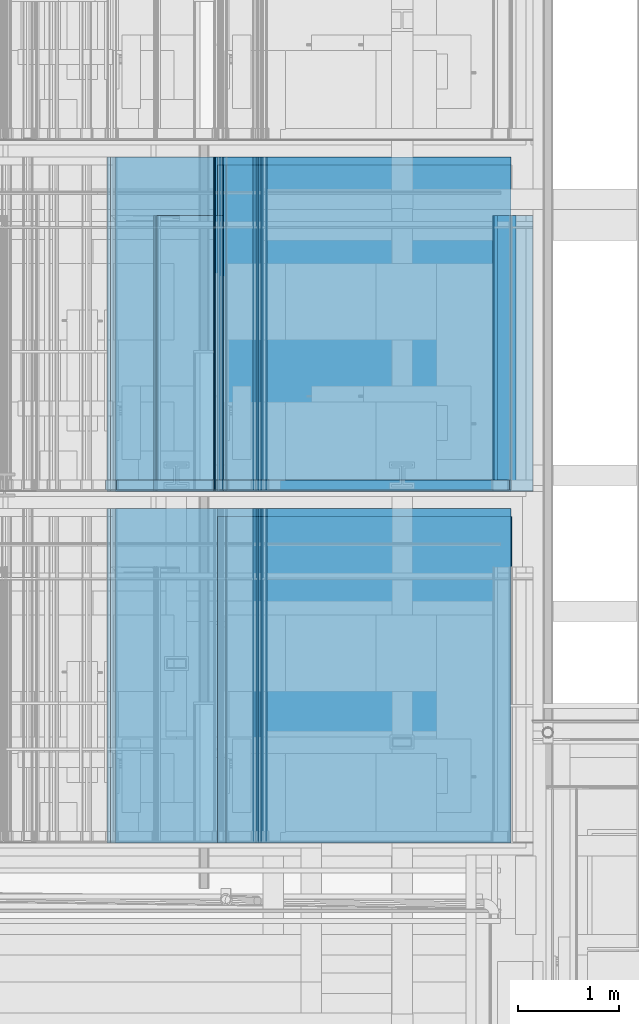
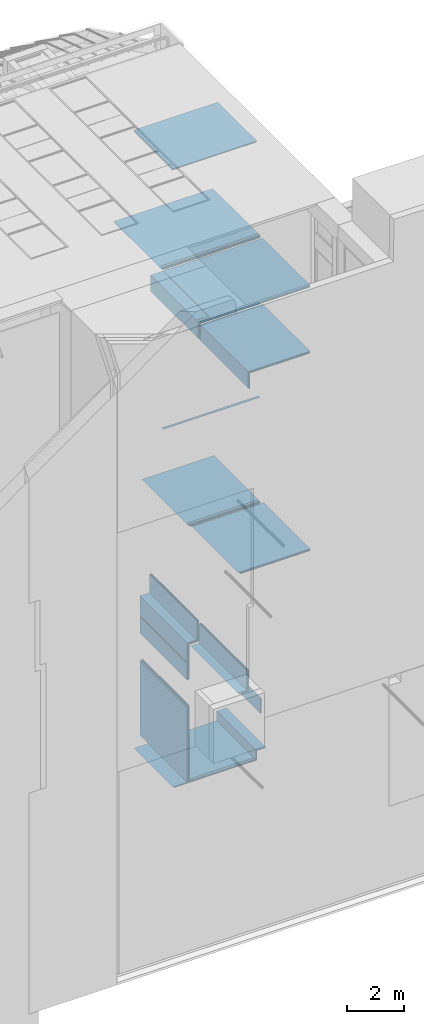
# One storey, part 112 of 583: 60 building element parts, 20 elements without a shape of their own.
"""IFC2X3 building model written with IfcOpenShell, lengths in metres."""

import ifcopenshell
import ifcopenshell.guid

model = None  # the IFC model being written
_history = None  # IfcOwnerHistory: only IFC2X3 demands one
_inside = {}  # id of a spatial element -> (the spatial element, [elements in it])
_under = {}  # id of a project, library or spatial element -> (it, [spatial elements below it])
_declared = {}  # id of a project -> (the project, [libraries it declares])
_typed = {}  # id of a type object -> (the type object, [elements of that type])
_made_of = {}  # id of a material, layer set ... -> (it, [elements and type objects made of it])


def new_model(schema):
    """Start an empty IFC model of exactly this schema.

    Asked for "IFC4X3", IfcOpenShell would pick the latest addendum, in which some entities
    have other attributes; the version numbers below select the first issue.
    IFC2X3 requires an IfcOwnerHistory on every rooted entity: one is made here for all.
    """
    global model, _history
    if schema == "IFC4X3":
        model = ifcopenshell.file(schema_version=(4, 3, 0, 0))
    else:
        model = ifcopenshell.file(schema=schema)
    _inside.clear()
    _under.clear()
    _declared.clear()
    _typed.clear()
    _made_of.clear()
    _history = None
    if model.schema == "IFC2X3":
        org = make("IfcOrganization", Name="unknown")
        user = make(
            "IfcPersonAndOrganization",
            ThePerson=make("IfcPerson", FamilyName="unknown"),
            TheOrganization=org,
        )
        app = make(
            "IfcApplication",
            ApplicationDeveloper=org,
            Version="unknown",
            ApplicationFullName="unknown",
            ApplicationIdentifier="unknown",
        )
        _history = make(
            "IfcOwnerHistory",
            OwningUser=user,
            OwningApplication=app,
            ChangeAction="ADDED",
            CreationDate=0,
        )
    return model


def make(cls, **values):
    """One entity of the class cls with the attributes given. An attribute that is None is left unset."""
    return model.create_entity(
        cls, **{name: value for name, value in values.items() if value is not None}
    )


def entity(cls, *values):
    """Any entity or typed value of the class cls, its attributes in the order of the schema. None: left unset."""
    e = model.create_entity(cls)
    for i, value in enumerate(values):
        if value is not None:
            e[i] = value
    return e


def rooted(cls, **values):
    """An entity with a GlobalId (a new one), such as an element, a storey or a relation."""
    return make(cls, GlobalId=ifcopenshell.guid.new(), OwnerHistory=_history, **values)


def si_unit(unit_type, name, prefix=None):
    """IfcSIUnit, for example si_unit("LENGTHUNIT", "METRE", prefix="MILLI")."""
    return make("IfcSIUnit", UnitType=unit_type, Prefix=prefix, Name=name)


def converted_unit(unit_type, name, factor, base, dimensions=None, offset=None):
    """IfcConversionBasedUnit, such as the inch: factor (a typed value) times the base unit."""
    return make(
        "IfcConversionBasedUnit"
        if offset is None
        else "IfcConversionBasedUnitWithOffset",
        ConversionOffset=offset,
        Dimensions=None
        if dimensions is None
        else entity("IfcDimensionalExponents", *dimensions),
        UnitType=unit_type,
        Name=name,
        ConversionFactor=make(
            "IfcMeasureWithUnit", ValueComponent=factor, UnitComponent=base
        ),
    )


def derived_unit(unit_type, elements):
    """IfcDerivedUnit: a product of units, each with its exponent."""
    return make(
        "IfcDerivedUnit",
        Elements=[
            make("IfcDerivedUnitElement", Unit=unit, Exponent=power)
            for unit, power in elements
        ],
        UnitType=unit_type,
    )


def money_unit(currency):
    """IfcMonetaryUnit."""
    return make("IfcMonetaryUnit", Currency=currency)


def assignment(units):
    """IfcUnitAssignment: the units of a project."""
    return None if units is None else make("IfcUnitAssignment", Units=units)


def point(xyz):
    """IfcCartesianPoint."""
    return None if xyz is None else make("IfcCartesianPoint", Coordinates=xyz)


def direction(xyz):
    """IfcDirection."""
    return None if xyz is None else make("IfcDirection", DirectionRatios=xyz)


def frame(location, z_axis=None, x_axis=None):
    """IfcAxis2Placement3D, a coordinate frame: its origin and axes. An axis left out is left unset."""
    return make(
        "IfcAxis2Placement3D",
        Location=point(location),
        Axis=direction(z_axis),
        RefDirection=direction(x_axis),
    )


def frame_2d(location, x_axis=None):
    """IfcAxis2Placement2D, a coordinate frame in the plane: its origin and x axis."""
    return make(
        "IfcAxis2Placement2D", Location=point(location), RefDirection=direction(x_axis)
    )


def origin_with_axes():
    """The frame at (0, 0, 0) with the z axis (0, 0, 1) and the x axis (1, 0, 0) written out."""
    return frame((0.0, 0.0, 0.0), z_axis=(0.0, 0.0, 1.0), x_axis=(1.0, 0.0, 0.0))


def place(relative_to, where):
    """IfcLocalPlacement: puts the frame where relative to a parent placement (None: the world)."""
    return make(
        "IfcLocalPlacement", PlacementRelTo=relative_to, RelativePlacement=where
    )


def context(
    kind, dimensions, precision=None, world=None, true_north=None, identifier=None
):
    """IfcGeometricRepresentationContext, for example the 3D "Model" context."""
    return make(
        "IfcGeometricRepresentationContext",
        ContextIdentifier=identifier,
        ContextType=kind,
        CoordinateSpaceDimension=dimensions,
        Precision=precision,
        WorldCoordinateSystem=world,
        TrueNorth=true_north,
    )


def subcontext(parent, identifier, kind, view, scale=None):
    """IfcGeometricRepresentationSubContext, for example "Body" below "Model"."""
    return make(
        "IfcGeometricRepresentationSubContext",
        ContextIdentifier=identifier,
        ContextType=kind,
        ParentContext=parent,
        TargetScale=scale,
        TargetView=view,
    )


def project(units=None, contexts=None):
    """IfcProject with its units and contexts."""
    return rooted(
        "IfcProject",
        Name="project",
        RepresentationContexts=contexts,
        UnitsInContext=assignment(units),
    )


def spatial(cls, under=None, at=None, **own):
    """A site, building, storey or space (cls), placed at a placement, below another one or the project."""
    s = rooted(cls, ObjectPlacement=at, **own)
    if under is not None:
        _under.setdefault(under.id(), (under, []))[1].append(s)
    return s


def polyline(points):
    """IfcPolyline through the points."""
    return make("IfcPolyline", Points=[point(p) for p in points])


def profile(cls, at=None, kind="AREA", **sizes):
    """A parametric profile (cls). Its sizes go by their IFC names, for example OverallWidth=200.0."""
    return make(cls, ProfileType=kind, Position=at, **sizes)


def rectangle(**sizes):
    """IfcRectangleProfileDef."""
    return profile("IfcRectangleProfileDef", **sizes)


def outline(outer, holes=None, kind="AREA"):
    """IfcArbitraryClosedProfileDef: a profile drawn as a closed curve; with holes, ...WithVoids."""
    if holes is None:
        return make("IfcArbitraryClosedProfileDef", ProfileType=kind, OuterCurve=outer)
    return make(
        "IfcArbitraryProfileDefWithVoids",
        ProfileType=kind,
        OuterCurve=outer,
        InnerCurves=holes,
    )


def extrude(swept, where, along, depth):
    """IfcExtrudedAreaSolid: the profile swept, set in the frame where, extruded along a direction by depth."""
    return make(
        "IfcExtrudedAreaSolid",
        SweptArea=swept,
        Position=where,
        ExtrudedDirection=direction(along),
        Depth=depth,
    )


def shape(context_of_items, identifier, shape_type, items):
    """IfcShapeRepresentation: the items that make up one representation, for example the "Body"."""
    return make(
        "IfcShapeRepresentation",
        ContextOfItems=context_of_items,
        RepresentationIdentifier=identifier,
        RepresentationType=shape_type,
        Items=items,
    )


def material(Name=None, Category=None):
    """IfcMaterial."""
    return make("IfcMaterial", Name=Name, Category=Category)


def made_of(thing, what):
    """Note that an element or type object is made of a material, layer set ...; save() writes the relation."""
    if what is not None:
        _made_of.setdefault(what.id(), (what, []))[1].append(thing)
    return thing


def type_object(cls, material=None, **own):
    """A type object (cls), such as IfcWallType, which elements share."""
    return made_of(rooted(cls, **own), material)


def element(
    cls,
    number,
    at=None,
    inside=None,
    cuts=None,
    type_object=None,
    material=None,
    context=None,
    identifier="Body",
    shape_type=None,
    held_by="IfcProductDefinitionShape",
    body=None,
    shapes=None,
    **own,
):
    """One element of the class cls, such as IfcWall. Its Tag is "e" and its number.

    at: its placement. inside: the storey or other place that contains it. cuts: it is an
    opening in that element (IfcRelVoidsElement). A single representation is given by context,
    identifier, shape_type and body (its items); several are given by shapes. held_by: the class
    of the entity that holds the representations. save() writes the other relations.
    """
    e = rooted(cls, Tag="e%d" % number, ObjectPlacement=at, **own)
    if body is not None:
        shapes = [shape(context, identifier, shape_type, body)]
    if shapes is not None:
        e.Representation = make(held_by, Representations=shapes)
    if inside is not None:
        _inside.setdefault(inside.id(), (inside, []))[1].append(e)
    if cuts is not None:
        rooted(
            "IfcRelVoidsElement", RelatingBuildingElement=cuts, RelatedOpeningElement=e
        )
    if type_object is not None:
        _typed.setdefault(type_object.id(), (type_object, []))[1].append(e)
    return made_of(e, material)


def aggregate(whole, parts):
    """IfcRelAggregates: a whole, such as a stair, and the parts it consists of."""
    return rooted("IfcRelAggregates", RelatingObject=whole, RelatedObjects=parts)


def save(model, path):
    """Write the relations noted so far, then the file.

    IfcRelAggregates (storeys below a building ...), IfcRelContainedInSpatialStructure (elements
    in a storey), IfcRelDefinesByType, IfcRelAssociatesMaterial and IfcRelDeclares: one each for
    every whole, place, type object, material and project.
    """
    for whole, parts in _under.values():
        aggregate(whole, parts)
    for where, things in _inside.values():
        rooted(
            "IfcRelContainedInSpatialStructure",
            RelatedElements=things,
            RelatingStructure=where,
        )
    for kind, things in _typed.values():
        rooted("IfcRelDefinesByType", RelatedObjects=things, RelatingType=kind)
    for what, things in _made_of.values():
        rooted("IfcRelAssociatesMaterial", RelatedObjects=things, RelatingMaterial=what)
    for by, libraries in _declared.values():
        rooted("IfcRelDeclares", RelatingContext=by, RelatedDefinitions=libraries)
    model.write(path)


model = new_model("IFC2X3")

# Units and contexts
model_context = context("Model", 3, precision=1e-05, world=origin_with_axes(), true_north=direction((0.0, 1.0)))
body_context = subcontext(model_context, "Body", "Model", "MODEL_VIEW", scale=1.0)
ifc_project = project(units=[si_unit("LENGTHUNIT", "METRE"), si_unit("AREAUNIT", "SQUARE_METRE"), si_unit("VOLUMEUNIT", "CUBIC_METRE"), si_unit("ABSORBEDDOSEUNIT", "GRAY"), si_unit("AMOUNTOFSUBSTANCEUNIT", "MOLE"), si_unit("DOSEEQUIVALENTUNIT", "SIEVERT"), si_unit("ELECTRICCAPACITANCEUNIT", "FARAD"), si_unit("ELECTRICCHARGEUNIT", "COULOMB"), si_unit("ELECTRICCONDUCTANCEUNIT", "SIEMENS"), si_unit("ELECTRICCURRENTUNIT", "AMPERE"), si_unit("ELECTRICRESISTANCEUNIT", "OHM"), si_unit("ELECTRICVOLTAGEUNIT", "VOLT"), si_unit("ENERGYUNIT", "JOULE"), si_unit("FORCEUNIT", "NEWTON"), si_unit("FREQUENCYUNIT", "HERTZ"), si_unit("ILLUMINANCEUNIT", "LUX"), si_unit("INDUCTANCEUNIT", "HENRY"), si_unit("LUMINOUSFLUXUNIT", "LUMEN"), si_unit("LUMINOUSINTENSITYUNIT", "CANDELA"), si_unit("MAGNETICFLUXDENSITYUNIT", "TESLA"), si_unit("MAGNETICFLUXUNIT", "WEBER"), si_unit("MASSUNIT", "GRAM"), converted_unit("PLANEANGLEUNIT", "degree", entity("IfcReal", 0.0174532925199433), si_unit("PLANEANGLEUNIT", "RADIAN"), dimensions=[0, 0, 0, 0, 0, 0, 0]), si_unit("POWERUNIT", "WATT"), si_unit("PRESSUREUNIT", "PASCAL"), si_unit("RADIOACTIVITYUNIT", "BECQUEREL"), si_unit("SOLIDANGLEUNIT", "STERADIAN"), si_unit("THERMODYNAMICTEMPERATUREUNIT", "KELVIN"), si_unit("TIMEUNIT", "SECOND"), derived_unit("ACCELERATIONUNIT", [(si_unit("LENGTHUNIT", "METRE"), 1), (si_unit("TIMEUNIT", "SECOND"), -2)]), derived_unit("ANGULARVELOCITYUNIT", [(converted_unit("PLANEANGLEUNIT", "degree", entity("IfcReal", 0.0174532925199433), si_unit("PLANEANGLEUNIT", "RADIAN"), dimensions=[0, 0, 0, 0, 0, 0, 0]), 1), (si_unit("TIMEUNIT", "SECOND"), -1)]), derived_unit("CURVATUREUNIT", [(converted_unit("PLANEANGLEUNIT", "degree", entity("IfcReal", 0.0174532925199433), si_unit("PLANEANGLEUNIT", "RADIAN"), dimensions=[0, 0, 0, 0, 0, 0, 0]), 1), (si_unit("LENGTHUNIT", "METRE"), -1)]), derived_unit("DYNAMICVISCOSITYUNIT", [(si_unit("PRESSUREUNIT", "PASCAL"), 1), (si_unit("TIMEUNIT", "SECOND"), 1)]), derived_unit("HEATFLUXDENSITYUNIT", [(si_unit("POWERUNIT", "WATT"), 1), (si_unit("LENGTHUNIT", "METRE"), -2)]), derived_unit("HEATINGVALUEUNIT", [(si_unit("ENERGYUNIT", "JOULE"), 1), (si_unit("MASSUNIT", "GRAM"), -1)]), derived_unit("INTEGERCOUNTRATEUNIT", [(si_unit("TIMEUNIT", "SECOND"), -1)]), derived_unit("IONCONCENTRATIONUNIT", [(si_unit("MASSUNIT", "GRAM"), 1), (si_unit("VOLUMEUNIT", "CUBIC_METRE"), -1)]), derived_unit("ISOTHERMALMOISTURECAPACITYUNIT", [(si_unit("VOLUMEUNIT", "CUBIC_METRE"), 1), (si_unit("MASSUNIT", "GRAM"), -1)]), derived_unit("KINEMATICVISCOSITYUNIT", [(si_unit("AREAUNIT", "SQUARE_METRE"), 1), (si_unit("TIMEUNIT", "SECOND"), -1)]), derived_unit("LINEARFORCEUNIT", [(si_unit("FORCEUNIT", "NEWTON"), 1), (si_unit("LENGTHUNIT", "METRE"), -1)]), derived_unit("LINEARMOMENTUNIT", [(si_unit("FORCEUNIT", "NEWTON"), 1), (si_unit("LENGTHUNIT", "METRE"), -1)]), derived_unit("LINEARSTIFFNESSUNIT", [(si_unit("FORCEUNIT", "NEWTON"), 1), (si_unit("LENGTHUNIT", "METRE"), -1)]), derived_unit("LINEARVELOCITYUNIT", [(si_unit("LENGTHUNIT", "METRE"), 1), (si_unit("TIMEUNIT", "SECOND"), -1)]), derived_unit("LUMINOUSINTENSITYDISTRIBUTIONUNIT", [(si_unit("LUMINOUSINTENSITYUNIT", "CANDELA"), 1), (si_unit("LUMINOUSFLUXUNIT", "LUMEN"), -1)]), derived_unit("MASSDENSITYUNIT", [(si_unit("MASSUNIT", "GRAM"), 1), (si_unit("VOLUMEUNIT", "CUBIC_METRE"), -1)]), derived_unit("MASSFLOWRATEUNIT", [(si_unit("MASSUNIT", "GRAM"), 1), (si_unit("TIMEUNIT", "SECOND"), -1)]), derived_unit("MASSPERLENGTHUNIT", [(si_unit("MASSUNIT", "GRAM"), 1), (si_unit("LENGTHUNIT", "METRE"), -1)]), derived_unit("MODULUSOFELASTICITYUNIT", [(si_unit("FORCEUNIT", "NEWTON"), 1), (si_unit("AREAUNIT", "SQUARE_METRE"), -1)]), derived_unit("MODULUSOFLINEARSUBGRADEREACTIONUNIT", [(si_unit("FORCEUNIT", "NEWTON"), 1), (si_unit("LENGTHUNIT", "METRE"), -2)]), derived_unit("MODULUSOFROTATIONALSUBGRADEREACTIONUNIT", [(si_unit("FORCEUNIT", "NEWTON"), 1), (si_unit("LENGTHUNIT", "METRE"), 1)]), derived_unit("MODULUSOFSUBGRADEREACTIONUNIT", [(si_unit("FORCEUNIT", "NEWTON"), 1), (si_unit("VOLUMEUNIT", "CUBIC_METRE"), -1)]), derived_unit("MOISTUREDIFFUSIVITYUNIT", [(si_unit("VOLUMEUNIT", "CUBIC_METRE"), 1), (si_unit("TIMEUNIT", "SECOND"), -1)]), derived_unit("MOLECULARWEIGHTUNIT", [(si_unit("MASSUNIT", "GRAM"), 1), (si_unit("AMOUNTOFSUBSTANCEUNIT", "MOLE"), -1)]), derived_unit("PLANARFORCEUNIT", [(si_unit("FORCEUNIT", "NEWTON"), 1), (si_unit("LENGTHUNIT", "METRE"), -2)]), derived_unit("ROTATIONALFREQUENCYUNIT", [(si_unit("TIMEUNIT", "SECOND"), -1)]), derived_unit("ROTATIONALMASSUNIT", [(si_unit("MASSUNIT", "GRAM"), 1), (si_unit("LENGTHUNIT", "METRE"), 2)]), derived_unit("ROTATIONALSTIFFNESSUNIT", [(si_unit("FORCEUNIT", "NEWTON"), 1), (si_unit("LENGTHUNIT", "METRE"), 1), (converted_unit("PLANEANGLEUNIT", "degree", entity("IfcReal", 0.0174532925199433), si_unit("PLANEANGLEUNIT", "RADIAN"), dimensions=[0, 0, 0, 0, 0, 0, 0]), -1)]), derived_unit("SECTIONAREAINTEGRALUNIT", [(si_unit("LENGTHUNIT", "METRE"), 5)]), derived_unit("SECTIONMODULUSUNIT", [(si_unit("LENGTHUNIT", "METRE"), 3)]), derived_unit("SHEARMODULUSUNIT", [(si_unit("FORCEUNIT", "NEWTON"), 1), (si_unit("AREAUNIT", "SQUARE_METRE"), -1)]), derived_unit("SOUNDPOWERUNIT", [(si_unit("ENERGYUNIT", "JOULE"), 1), (si_unit("TIMEUNIT", "SECOND"), -1)]), derived_unit("SPECIFICHEATCAPACITYUNIT", [(si_unit("FORCEUNIT", "NEWTON"), 1), (si_unit("MASSUNIT", "GRAM"), -1), (si_unit("THERMODYNAMICTEMPERATUREUNIT", "KELVIN"), -1)]), derived_unit("TEMPERATUREGRADIENTUNIT", [(si_unit("THERMODYNAMICTEMPERATUREUNIT", "KELVIN"), 1), (si_unit("LENGTHUNIT", "METRE"), -1)]), derived_unit("THERMALADMITTANCEUNIT", [(si_unit("POWERUNIT", "WATT"), 1), (si_unit("AREAUNIT", "SQUARE_METRE"), -1), (si_unit("THERMODYNAMICTEMPERATUREUNIT", "KELVIN"), -1)]), derived_unit("THERMALCONDUCTANCEUNIT", [(si_unit("POWERUNIT", "WATT"), 1), (si_unit("LENGTHUNIT", "METRE"), -1), (si_unit("THERMODYNAMICTEMPERATUREUNIT", "KELVIN"), -1)]), derived_unit("THERMALEXPANSIONCOEFFICIENTUNIT", [(si_unit("THERMODYNAMICTEMPERATUREUNIT", "KELVIN"), -1)]), derived_unit("THERMALRESISTANCEUNIT", [(si_unit("AREAUNIT", "SQUARE_METRE"), 1), (si_unit("POWERUNIT", "WATT"), -1)]), derived_unit("THERMALTRANSMITTANCEUNIT", [(si_unit("POWERUNIT", "WATT"), 1), (si_unit("AREAUNIT", "SQUARE_METRE"), -1), (si_unit("THERMODYNAMICTEMPERATUREUNIT", "KELVIN"), -1)]), derived_unit("TORQUEUNIT", [(si_unit("FORCEUNIT", "NEWTON"), 1), (si_unit("LENGTHUNIT", "METRE"), 1)]), derived_unit("VAPORPERMEABILITYUNIT", [(si_unit("MASSUNIT", "GRAM"), 1), (si_unit("TIMEUNIT", "SECOND"), -1)]), derived_unit("VOLUMETRICFLOWRATEUNIT", [(si_unit("VOLUMEUNIT", "CUBIC_METRE"), 1), (si_unit("TIMEUNIT", "SECOND"), -1)]), derived_unit("WARPINGCONSTANTUNIT", [(si_unit("LENGTHUNIT", "METRE"), 6)]), derived_unit("WARPINGMOMENTUNIT", [(si_unit("FORCEUNIT", "NEWTON"), 1), (si_unit("LENGTHUNIT", "METRE"), 2)]), money_unit("GBP")], contexts=[model_context])

# Site, building, storey
site_placement = place(None, origin_with_axes())
site = spatial("IfcSite", under=ifc_project, at=site_placement, Name="Site", CompositionType="ELEMENT")
building_placement = place(site_placement, origin_with_axes())
building = spatial("IfcBuilding", under=site, at=building_placement, Name="Building01", CompositionType="ELEMENT")
storey_placement = place(building_placement, frame((0.0, 0.0, 20.78), z_axis=(0.0, 0.0, 1.0), x_axis=(1.0, 0.0, 0.0)))
storey = spatial("IfcBuildingStorey", under=building, at=storey_placement, Name="RL", CompositionType="ELEMENT", Elevation=20.78)

# Wall, building element parts
wall_type_1 = type_object("IfcWallType", Name="SHE_A-Walls_Type05a_Partition_95mm_tall", PredefinedType="NOTDEFINED")
wall_1_placement = place(storey_placement, frame((12.099378, 5.15, -1.694716), z_axis=(0.0, 1.0, 0.0), x_axis=(0.0, 0.0, 1.0)))
wall_1 = element("IfcWall", 1, at=wall_1_placement, inside=storey, type_object=wall_type_1, Name="5A", ObjectType="SHE_A-Walls_Type05a_Partition_95mm_tall")
ifc_material_1 = material(Name="A_BSUK_Insulation")
placement_1 = place(wall_1_placement, origin_with_axes())
building_element_part_1 = element("IfcBuildingElementPart", 2, at=placement_1, material=ifc_material_1, Name="1", context=body_context, shape_type="SweptSolid", body=[
    extrude(outline(polyline([(0.664716, 0.025), (-0.025, 0.025), (0.0, 0.0), (0.689716, 0.0), (0.664716, 0.025)])), origin_with_axes(), (0.0, 0.0, 1.0), 3.32),
])
ifc_material_2 = material(Name="A_BSUK_WallInternal_Finishes_Plasterboard")
building_element_part_2 = element("IfcBuildingElementPart", 3, at=placement_1, material=ifc_material_2, Name="4", context=body_context, shape_type="SweptSolid", body=[
    extrude(outline(polyline([(0.629716, 0.06), (-0.06, 0.06), (-0.048, 0.048), (0.641716, 0.048), (0.629716, 0.06)])), origin_with_axes(), (0.0, 0.0, 1.0), 3.32),
])
building_element_part_3 = element("IfcBuildingElementPart", 4, at=placement_1, material=ifc_material_2, Name="5", context=body_context, shape_type="SweptSolid", body=[
    extrude(outline(polyline([(0.712716, -0.023), (0.023, -0.023), (0.035, -0.035), (0.724716, -0.035), (0.712716, -0.023)])), origin_with_axes(), (0.0, 0.0, 1.0), 3.32),
])
aggregate(wall_1, [building_element_part_1, building_element_part_2, building_element_part_3])

wall_2_placement = place(storey_placement, frame((11.66567, 5.15, -14.550331), z_axis=(0.0, 1.0, 0.0), x_axis=(1.0, 0.0, 0.0)))
wall_2 = element("IfcWall", 5, at=wall_2_placement, inside=storey, type_object=wall_type_1, Name="5A", ObjectType="SHE_A-Walls_Type05a_Partition_95mm_tall")
placement_2 = place(wall_2_placement, origin_with_axes())
building_element_part_4 = element("IfcBuildingElementPart", 6, at=placement_2, material=ifc_material_1, Name="1", context=body_context, shape_type="SweptSolid", body=[
    extrude(outline(polyline([(0.41, 0.025), (0.025, 0.025), (0.0, 0.0), (0.385, 0.0), (0.41, 0.025)])), origin_with_axes(), (0.0, 0.0, 1.0), 3.32),
])
building_element_part_5 = element("IfcBuildingElementPart", 7, at=placement_2, material=ifc_material_2, Name="4", context=body_context, shape_type="SweptSolid", body=[
    extrude(outline(polyline([(0.445, 0.06), (0.06, 0.06), (0.048, 0.048), (0.433, 0.048), (0.445, 0.06)])), origin_with_axes(), (0.0, 0.0, 1.0), 3.32),
])
aggregate(wall_2, [building_element_part_4, building_element_part_5])

wall_3_placement = place(storey_placement, frame((12.05067, 5.15, -14.550331), z_axis=(0.0, 1.0, 0.0), x_axis=(0.0, 0.0, 1.0)))
wall_3 = element("IfcWall", 8, at=wall_3_placement, inside=storey, type_object=wall_type_1, Name="5A", ObjectType="SHE_A-Walls_Type05a_Partition_95mm_tall")
placement_3 = place(wall_3_placement, origin_with_axes())
building_element_part_6 = element("IfcBuildingElementPart", 9, at=placement_3, material=ifc_material_1, Name="1", context=body_context, shape_type="SweptSolid", body=[
    extrude(outline(polyline([(0.835, 0.025), (-0.025, 0.025), (0.0, 0.0), (0.835, 0.0), (0.835, 0.025)])), origin_with_axes(), (0.0, 0.0, 1.0), 3.32),
])
building_element_part_7 = element("IfcBuildingElementPart", 10, at=placement_3, material=ifc_material_2, Name="4", context=body_context, shape_type="SweptSolid", body=[
    extrude(outline(polyline([(0.835, 0.06), (-0.06, 0.06), (-0.048, 0.048), (0.835, 0.048), (0.835, 0.06)])), origin_with_axes(), (0.0, 0.0, 1.0), 3.32),
])
building_element_part_8 = element("IfcBuildingElementPart", 11, at=placement_3, material=ifc_material_2, Name="5", context=body_context, shape_type="SweptSolid", body=[
    extrude(rectangle(XDim=0.812, YDim=0.012, at=frame_2d((0.429, -0.029), x_axis=(-1.0, 0.0))), origin_with_axes(), (0.0, 0.0, 1.0), 3.32),
])
aggregate(wall_3, [building_element_part_6, building_element_part_7, building_element_part_8])

wall_4_placement = place(storey_placement, frame((12.099378, 5.15, -1.005), z_axis=(0.0, 1.0, 0.0), x_axis=(1.0, 0.0, 0.0)))
wall_4 = element("IfcWall", 12, at=wall_4_placement, inside=storey, type_object=wall_type_1, Name="5A", ObjectType="SHE_A-Walls_Type05a_Partition_95mm_tall")
placement_4 = place(wall_4_placement, origin_with_axes())
building_element_part_9 = element("IfcBuildingElementPart", 13, at=placement_4, material=ifc_material_1, Name="1", context=body_context, shape_type="SweptSolid", body=[
    extrude(outline(polyline([(2.482622, 0.025), (0.025, 0.025), (0.0, 0.0), (2.482622, 0.0), (2.482622, 0.025)])), origin_with_axes(), (0.0, 0.0, 1.0), 3.32),
])
building_element_part_10 = element("IfcBuildingElementPart", 14, at=placement_4, material=ifc_material_2, Name="4", context=body_context, shape_type="SweptSolid", body=[
    extrude(outline(polyline([(2.482622, 0.06), (0.06, 0.06), (0.048, 0.048), (2.482622, 0.048), (2.482622, 0.06)])), origin_with_axes(), (0.0, 0.0, 1.0), 3.32),
])
building_element_part_11 = element("IfcBuildingElementPart", 15, at=placement_4, material=ifc_material_2, Name="5", context=body_context, shape_type="SweptSolid", body=[
    extrude(outline(polyline([(2.482622, -0.023), (-0.023, -0.023), (-0.035, -0.035), (2.482622, -0.035), (2.482622, -0.023)])), origin_with_axes(), (0.0, 0.0, 1.0), 3.32),
])
aggregate(wall_4, [building_element_part_9, building_element_part_10, building_element_part_11])

wall_5_placement = place(storey_placement, frame((10.605, 5.15, 1.81), z_axis=(0.0, 1.0, 0.0), x_axis=(1.0, 0.0, 0.0)))
wall_5 = element("IfcWall", 16, at=wall_5_placement, inside=storey, type_object=wall_type_1, Name="5A", ObjectType="SHE_A-Walls_Type05a_Partition_95mm_tall")
placement_5 = place(wall_5_placement, origin_with_axes())
building_element_part_12 = element("IfcBuildingElementPart", 17, at=placement_5, material=ifc_material_1, Name="1", context=body_context, shape_type="SweptSolid", body=[
    extrude(rectangle(XDim=3.977, YDim=0.025, at=frame_2d((1.9885, 0.0125), x_axis=(-1.0, 0.0))), origin_with_axes(), (0.0, 0.0, 1.0), 3.32),
])
building_element_part_13 = element("IfcBuildingElementPart", 18, at=placement_5, material=ifc_material_2, Name="4", context=body_context, shape_type="SweptSolid", body=[
    extrude(outline(polyline([(3.977, 0.06), (0.06, 0.06), (0.048, 0.048), (3.977, 0.048), (3.977, 0.06)])), origin_with_axes(), (0.0, 0.0, 1.0), 3.32),
])
building_element_part_14 = element("IfcBuildingElementPart", 19, at=placement_5, material=ifc_material_2, Name="5", context=body_context, shape_type="SweptSolid", body=[
    extrude(outline(polyline([(3.977, -0.023), (-0.023, -0.023), (-0.035, -0.035), (3.977, -0.035), (3.977, -0.023)])), origin_with_axes(), (0.0, 0.0, 1.0), 3.32),
])
aggregate(wall_5, [building_element_part_12, building_element_part_13, building_element_part_14])

wall_6_placement = place(storey_placement, frame((11.728124, 5.15, -9.44), z_axis=(0.0, 1.0, 0.0), x_axis=(1.0, 0.0, 0.0)))
wall_6 = element("IfcWall", 20, at=wall_6_placement, inside=storey, type_object=wall_type_1, Name="5A", ObjectType="SHE_A-Walls_Type05a_Partition_95mm_tall")
placement_6 = place(wall_6_placement, origin_with_axes())
building_element_part_15 = element("IfcBuildingElementPart", 21, at=placement_6, material=ifc_material_1, Name="1", context=body_context, shape_type="SweptSolid", body=[
    extrude(rectangle(XDim=2.865876, YDim=0.025, at=frame_2d((1.432938, 0.0125), x_axis=(-1.0, 0.0))), origin_with_axes(), (0.0, 0.0, 1.0), 3.24),
])
building_element_part_16 = element("IfcBuildingElementPart", 22, at=placement_6, material=ifc_material_2, Name="4", context=body_context, shape_type="SweptSolid", body=[
    extrude(outline(polyline([(2.853876, 0.06), (0.035, 0.06), (0.023, 0.048), (2.853876, 0.048), (2.853876, 0.06)])), origin_with_axes(), (0.0, 0.0, 1.0), 3.24),
])
building_element_part_17 = element("IfcBuildingElementPart", 23, at=placement_6, material=ifc_material_2, Name="5", context=body_context, shape_type="SweptSolid", body=[
    extrude(outline(polyline([(2.853876, -0.023), (-0.048, -0.023), (-0.06, -0.035), (2.853876, -0.035), (2.853876, -0.023)])), origin_with_axes(), (0.0, 0.0, 1.0), 3.24),
])
aggregate(wall_6, [building_element_part_15, building_element_part_16, building_element_part_17])

wall_type_2 = type_object("IfcWallType", Name="SHE_A-Walls_Type06d_ExternalWallInsulation_48mm", PredefinedType="NOTDEFINED")
wall_7_placement = place(storey_placement, frame((14.8, 8.64, -20.103), z_axis=(0.0, 1.0, 0.0), x_axis=(-1.0, 0.0, 0.0)))
wall_7 = element("IfcWall", 24, at=wall_7_placement, inside=storey, type_object=wall_type_2, Name="6D", ObjectType="SHE_A-Walls_Type06d_ExternalWallInsulation_48mm")
placement_7 = place(wall_7_placement, origin_with_axes())
building_element_part_18 = element("IfcBuildingElementPart", 25, at=placement_7, material=ifc_material_1, Name="1", context=body_context, shape_type="SweptSolid", body=[
    extrude(outline(polyline([(0.386, 0.036), (0.0, 0.036), (0.0, 0.0), (0.35, 0.0), (0.386, 0.036)])), origin_with_axes(), (0.0, 0.0, 1.0), 2.74),
])
building_element_part_19 = element("IfcBuildingElementPart", 26, at=placement_7, material=ifc_material_2, Name="3", context=body_context, shape_type="SweptSolid", body=[
    extrude(outline(polyline([(0.398, 0.048), (0.0, 0.048), (0.0, 0.035), (0.385, 0.035), (0.398, 0.048)])), origin_with_axes(), (0.0, 0.0, 1.0), 2.74),
])
aggregate(wall_7, [building_element_part_18, building_element_part_19])

wall_8_placement = place(storey_placement, frame((14.45, 8.64, -20.103), z_axis=(0.0, 1.0, 0.0), x_axis=(0.0, 0.0, -1.0)))
wall_8 = element("IfcWall", 27, at=wall_8_placement, inside=storey, type_object=wall_type_2, Name="6D", ObjectType="SHE_A-Walls_Type06d_ExternalWallInsulation_48mm")
placement_8 = place(wall_8_placement, origin_with_axes())
building_element_part_20 = element("IfcBuildingElementPart", 28, at=placement_8, material=ifc_material_1, Name="1", context=body_context, shape_type="SweptSolid", body=[
    extrude(outline(polyline([(0.371, 0.036), (-0.036, 0.036), (0.0, 0.0), (0.407, 0.0), (0.371, 0.036)])), origin_with_axes(), (0.0, 0.0, 1.0), 2.74),
])
building_element_part_21 = element("IfcBuildingElementPart", 29, at=placement_8, material=ifc_material_2, Name="3", context=body_context, shape_type="SweptSolid", body=[
    extrude(outline(polyline([(0.359, 0.048), (-0.048, 0.048), (-0.035, 0.035), (0.372, 0.035), (0.359, 0.048)])), origin_with_axes(), (0.0, 0.0, 1.0), 2.74),
])
aggregate(wall_8, [building_element_part_20, building_element_part_21])

# Wall, building element part
wall_9_placement = place(storey_placement, frame((14.63, 8.64, -17.913), z_axis=(0.0, 1.0, 0.0), x_axis=(0.0, 0.0, -1.0)))
wall_9 = element("IfcWall", 30, at=wall_9_placement, inside=storey, type_object=wall_type_2, Name="6D", ObjectType="SHE_A-Walls_Type06d_ExternalWallInsulation_48mm")
building_element_part_22_placement = place(wall_9_placement, origin_with_axes())
building_element_part_22 = element("IfcBuildingElementPart", 31, at=building_element_part_22_placement, material=ifc_material_1, Name="1", context=body_context, shape_type="SweptSolid", body=[
    extrude(outline(polyline([(0.66, 0.036), (-0.036, 0.036), (0.0, 0.0), (0.624, 0.0), (0.66, 0.036)])), origin_with_axes(), (0.0, 0.0, 1.0), 2.74),
])
aggregate(wall_9, [building_element_part_22])

# Wall, building element parts
wall_10_placement = place(storey_placement, frame((11.08018, 8.64, 5.93), z_axis=(0.0, 1.0, 0.0), x_axis=(1.0, 0.0, 0.0)))
wall_10 = element("IfcWall", 32, at=wall_10_placement, inside=storey, type_object=wall_type_2, Name="6D", ObjectType="SHE_A-Walls_Type06d_ExternalWallInsulation_48mm")
placement_9 = place(wall_10_placement, origin_with_axes())
building_element_part_23 = element("IfcBuildingElementPart", 33, at=placement_9, material=ifc_material_1, Name="1", context=body_context, shape_type="SweptSolid", body=[
    extrude(outline(polyline([(3.33382, 0.036), (-0.036, 0.036), (0.0, 0.0), (3.36982, 0.0), (3.33382, 0.036)])), origin_with_axes(), (0.0, 0.0, 1.0), 2.74),
])
ifc_material_3 = material(Name="A_BSUK_Walls_Timber")
building_element_part_24 = element("IfcBuildingElementPart", 34, at=placement_9, material=ifc_material_3, Name="2", context=body_context, shape_type="SweptSolid", body=[
    extrude(outline(polyline([(3.30682, 0.063), (-0.048, 0.063), (-0.048, 0.048), (3.32182, 0.048), (3.30682, 0.063)])), frame((0.0, 0.0, 0.015), z_axis=(0.0, 0.0, 1.0), x_axis=(1.0, 0.0, 0.0)), (0.0, 0.0, 1.0), 0.1),
])
building_element_part_25 = element("IfcBuildingElementPart", 35, at=placement_9, material=ifc_material_2, Name="3", context=body_context, shape_type="SweptSolid", body=[
    extrude(outline(polyline([(3.32182, 0.048), (-0.048, 0.048), (-0.035, 0.035), (3.33482, 0.035), (3.32182, 0.048)])), origin_with_axes(), (0.0, 0.0, 1.0), 2.74),
])
aggregate(wall_10, [building_element_part_23, building_element_part_24, building_element_part_25])

wall_11_placement = place(storey_placement, frame((14.45, 8.64, -20.51), z_axis=(0.0, 1.0, 0.0), x_axis=(-1.0, 0.0, 0.0)))
wall_11 = element("IfcWall", 36, at=wall_11_placement, inside=storey, type_object=wall_type_2, Name="6D", ObjectType="SHE_A-Walls_Type06d_ExternalWallInsulation_48mm")
placement_10 = place(wall_11_placement, origin_with_axes())
building_element_part_26 = element("IfcBuildingElementPart", 37, at=placement_10, material=ifc_material_1, Name="1", context=body_context, shape_type="SweptSolid", body=[
    extrude(outline(polyline([(3.383, 0.036), (0.036, 0.036), (0.0, 0.0), (3.347, 0.0), (3.383, 0.036)])), origin_with_axes(), (0.0, 0.0, 1.0), 2.74),
])
building_element_part_27 = element("IfcBuildingElementPart", 38, at=placement_10, material=ifc_material_3, Name="2", context=body_context, shape_type="SweptSolid", body=[
    extrude(outline(polyline([(2.72433, 0.063), (0.063, 0.063), (0.048, 0.048), (2.72433, 0.048), (2.72433, 0.063)])), frame((0.0, 0.0, 0.015), z_axis=(0.0, 0.0, 1.0), x_axis=(1.0, 0.0, 0.0)), (0.0, 0.0, 1.0), 0.1),
])
building_element_part_28 = element("IfcBuildingElementPart", 39, at=placement_10, material=ifc_material_2, Name="4", context=body_context, shape_type="SweptSolid", body=[
    extrude(outline(polyline([(3.395, 0.048), (0.048, 0.048), (0.035, 0.035), (3.382, 0.035), (3.395, 0.048)])), origin_with_axes(), (0.0, 0.0, 1.0), 2.74),
])
aggregate(wall_11, [building_element_part_26, building_element_part_27, building_element_part_28])

wall_12_placement = place(storey_placement, frame((10.605, 8.64, 1.81), z_axis=(0.0, 1.0, 0.0), x_axis=(1.0, 0.0, 0.0)))
wall_12 = element("IfcWall", 40, at=wall_12_placement, inside=storey, type_object=wall_type_1, Name="5A", ObjectType="SHE_A-Walls_Type05a_Partition_95mm_tall")
placement_11 = place(wall_12_placement, origin_with_axes())
building_element_part_29 = element("IfcBuildingElementPart", 41, at=placement_11, material=ifc_material_1, Name="1", context=body_context, shape_type="SweptSolid", body=[
    extrude(rectangle(XDim=3.977, YDim=0.025, at=frame_2d((1.9885, 0.0125), x_axis=(-1.0, 0.0))), origin_with_axes(), (0.0, 0.0, 1.0), 3.32),
])
building_element_part_30 = element("IfcBuildingElementPart", 42, at=placement_11, material=ifc_material_3, Name="2", context=body_context, shape_type="SweptSolid", body=[
    extrude(outline(polyline([(3.962, 0.075), (0.075, 0.075), (0.06, 0.06), (3.962, 0.06), (3.962, 0.075)])), frame((0.0, 0.0, 0.015), z_axis=(0.0, 0.0, 1.0), x_axis=(1.0, 0.0, 0.0)), (0.0, 0.0, 1.0), 0.1),
])
building_element_part_31 = element("IfcBuildingElementPart", 43, at=placement_11, material=ifc_material_3, Name="3", context=body_context, shape_type="SweptSolid", body=[
    extrude(outline(polyline([(3.977, -0.035), (-0.035, -0.035), (-0.05, -0.05), (3.977, -0.05), (3.977, -0.035)])), frame((0.0, 0.0, 0.015), z_axis=(0.0, 0.0, 1.0), x_axis=(1.0, 0.0, 0.0)), (0.0, 0.0, 1.0), 0.1),
])
building_element_part_32 = element("IfcBuildingElementPart", 44, at=placement_11, material=ifc_material_2, Name="4", context=body_context, shape_type="SweptSolid", body=[
    extrude(outline(polyline([(3.977, 0.06), (0.06, 0.06), (0.048, 0.048), (3.977, 0.048), (3.977, 0.06)])), origin_with_axes(), (0.0, 0.0, 1.0), 3.32),
])
building_element_part_33 = element("IfcBuildingElementPart", 45, at=placement_11, material=ifc_material_2, Name="5", context=body_context, shape_type="SweptSolid", body=[
    extrude(outline(polyline([(3.977, -0.023), (-0.023, -0.023), (-0.035, -0.035), (3.977, -0.035), (3.977, -0.023)])), origin_with_axes(), (0.0, 0.0, 1.0), 3.32),
])
aggregate(wall_12, [building_element_part_29, building_element_part_30, building_element_part_31, building_element_part_32, building_element_part_33])

wall_13_placement = place(storey_placement, frame((12.099378, 8.64, -1.005), z_axis=(0.0, 1.0, 0.0), x_axis=(1.0, 0.0, 0.0)))
wall_13 = element("IfcWall", 46, at=wall_13_placement, inside=storey, type_object=wall_type_1, Name="5A", ObjectType="SHE_A-Walls_Type05a_Partition_95mm_tall")
placement_12 = place(wall_13_placement, origin_with_axes())
building_element_part_34 = element("IfcBuildingElementPart", 47, at=placement_12, material=ifc_material_1, Name="1", context=body_context, shape_type="SweptSolid", body=[
    extrude(outline(polyline([(2.482622, 0.025), (0.025, 0.025), (0.0, 0.0), (2.482622, 0.0), (2.482622, 0.025)])), origin_with_axes(), (0.0, 0.0, 1.0), 3.32),
])
building_element_part_35 = element("IfcBuildingElementPart", 48, at=placement_12, material=ifc_material_3, Name="2", context=body_context, shape_type="SweptSolid", body=[
    extrude(outline(polyline([(2.482622, 0.075), (0.075, 0.075), (0.06, 0.06), (2.482622, 0.06), (2.482622, 0.075)])), frame((0.0, 0.0, 0.015), z_axis=(0.0, 0.0, 1.0), x_axis=(1.0, 0.0, 0.0)), (0.0, 0.0, 1.0), 0.1),
])
building_element_part_36 = element("IfcBuildingElementPart", 49, at=placement_12, material=ifc_material_3, Name="3", context=body_context, shape_type="SweptSolid", body=[
    extrude(outline(polyline([(2.467622, -0.035), (-0.035, -0.035), (-0.05, -0.05), (2.467622, -0.05), (2.467622, -0.035)])), frame((0.0, 0.0, 0.015), z_axis=(0.0, 0.0, 1.0), x_axis=(1.0, 0.0, 0.0)), (0.0, 0.0, 1.0), 0.1),
])
building_element_part_37 = element("IfcBuildingElementPart", 50, at=placement_12, material=ifc_material_2, Name="4", context=body_context, shape_type="SweptSolid", body=[
    extrude(outline(polyline([(2.482622, 0.06), (0.06, 0.06), (0.048, 0.048), (2.482622, 0.048), (2.482622, 0.06)])), origin_with_axes(), (0.0, 0.0, 1.0), 3.32),
])
building_element_part_38 = element("IfcBuildingElementPart", 51, at=placement_12, material=ifc_material_2, Name="5", context=body_context, shape_type="SweptSolid", body=[
    extrude(outline(polyline([(2.482622, -0.023), (-0.023, -0.023), (-0.035, -0.035), (2.482622, -0.035), (2.482622, -0.023)])), origin_with_axes(), (0.0, 0.0, 1.0), 3.32),
])
aggregate(wall_13, [building_element_part_34, building_element_part_35, building_element_part_36, building_element_part_37, building_element_part_38])

wall_14_placement = place(storey_placement, frame((12.099378, 8.64, -1.694716), z_axis=(0.0, 1.0, 0.0), x_axis=(0.0, 0.0, 1.0)))
wall_14 = element("IfcWall", 52, at=wall_14_placement, inside=storey, type_object=wall_type_1, Name="5A", ObjectType="SHE_A-Walls_Type05a_Partition_95mm_tall")
placement_13 = place(wall_14_placement, origin_with_axes())
building_element_part_39 = element("IfcBuildingElementPart", 53, at=placement_13, material=ifc_material_1, Name="1", context=body_context, shape_type="SweptSolid", body=[
    extrude(outline(polyline([(0.664716, 0.025), (-0.025, 0.025), (0.0, 0.0), (0.689716, 0.0), (0.664716, 0.025)])), origin_with_axes(), (0.0, 0.0, 1.0), 3.32),
])
building_element_part_40 = element("IfcBuildingElementPart", 54, at=placement_13, material=ifc_material_2, Name="4", context=body_context, shape_type="SweptSolid", body=[
    extrude(outline(polyline([(0.629716, 0.06), (-0.06, 0.06), (-0.048, 0.048), (0.641716, 0.048), (0.629716, 0.06)])), origin_with_axes(), (0.0, 0.0, 1.0), 3.32),
])
building_element_part_41 = element("IfcBuildingElementPart", 55, at=placement_13, material=ifc_material_2, Name="5", context=body_context, shape_type="SweptSolid", body=[
    extrude(outline(polyline([(0.712716, -0.023), (0.023, -0.023), (0.035, -0.035), (0.724716, -0.035), (0.712716, -0.023)])), origin_with_axes(), (0.0, 0.0, 1.0), 3.32),
])
aggregate(wall_14, [building_element_part_39, building_element_part_40, building_element_part_41])

# Wall, building element part
wall_type_3 = type_object("IfcWallType", Name="SHE_A-Walls_Type01c_Partywall_225mm_twin_tall", PredefinedType="NOTDEFINED")
wall_15_placement = place(storey_placement, frame((8.82, 8.64, -5.159868), z_axis=(0.0, 1.0, 0.0), x_axis=(1.0, 0.0, 0.0)))
wall_15 = element("IfcWall", 56, at=wall_15_placement, inside=storey, type_object=wall_type_3, Name="1C", ObjectType="SHE_A-Walls_Type01c_Partywall_225mm_twin_tall")
building_element_part_42_placement = place(wall_15_placement, origin_with_axes())
building_element_part_42 = element("IfcBuildingElementPart", 57, at=building_element_part_42_placement, material=ifc_material_3, Name="8", context=body_context, shape_type="SweptSolid", body=[
    extrude(rectangle(XDim=3.902, YDim=0.015, at=frame_2d((3.796, -0.0955), x_axis=(-1.0, 0.0))), frame((0.0, 0.0, 0.015), z_axis=(0.0, 0.0, 1.0), x_axis=(1.0, 0.0, 0.0)), (0.0, 0.0, 1.0), 0.1),
])
aggregate(wall_15, [building_element_part_42])

# Wall, building element parts
wall_16_placement = place(storey_placement, frame((11.69067, 8.64, -20.462), z_axis=(0.0, 1.0, 0.0), x_axis=(0.0, 0.0, 1.0)))
wall_16 = element("IfcWall", 58, at=wall_16_placement, inside=storey, type_object=wall_type_1, Name="5A", ObjectType="SHE_A-Walls_Type05a_Partition_95mm_tall")
placement_14 = place(wall_16_placement, origin_with_axes())
building_element_part_43 = element("IfcBuildingElementPart", 59, at=placement_14, material=ifc_material_1, Name="1", context=body_context, shape_type="SweptSolid", body=[
    extrude(rectangle(XDim=3.216669, YDim=0.025, at=frame_2d((1.608334, -0.0125), x_axis=(-1.0, 0.0))), origin_with_axes(), (0.0, 0.0, 1.0), 3.32),
])
building_element_part_44 = element("IfcBuildingElementPart", 60, at=placement_14, material=ifc_material_2, Name="4", context=body_context, shape_type="SweptSolid", body=[
    extrude(outline(polyline([(3.168669, -0.048), (0.0, -0.048), (0.0, -0.06), (3.156669, -0.06), (3.168669, -0.048)])), origin_with_axes(), (0.0, 0.0, 1.0), 3.32),
])
building_element_part_45 = element("IfcBuildingElementPart", 61, at=placement_14, material=ifc_material_2, Name="5", context=body_context, shape_type="SweptSolid", body=[
    extrude(outline(polyline([(3.251669, 0.035), (0.0, 0.035), (0.0, 0.023), (3.239669, 0.023), (3.251669, 0.035)])), origin_with_axes(), (0.0, 0.0, 1.0), 3.32),
])
aggregate(wall_16, [building_element_part_43, building_element_part_44, building_element_part_45])

wall_17_placement = place(storey_placement, frame((11.66567, 8.64, -14.550331), z_axis=(0.0, 1.0, 0.0), x_axis=(1.0, 0.0, 0.0)))
wall_17 = element("IfcWall", 62, at=wall_17_placement, inside=storey, type_object=wall_type_1, Name="5A", ObjectType="SHE_A-Walls_Type05a_Partition_95mm_tall")
placement_15 = place(wall_17_placement, origin_with_axes())
building_element_part_46 = element("IfcBuildingElementPart", 63, at=placement_15, material=ifc_material_1, Name="1", context=body_context, shape_type="SweptSolid", body=[
    extrude(outline(polyline([(0.41, 0.025), (0.025, 0.025), (0.0, 0.0), (0.385, 0.0), (0.41, 0.025)])), origin_with_axes(), (0.0, 0.0, 1.0), 3.32),
])
building_element_part_47 = element("IfcBuildingElementPart", 64, at=placement_15, material=ifc_material_2, Name="4", context=body_context, shape_type="SweptSolid", body=[
    extrude(outline(polyline([(0.445, 0.06), (0.06, 0.06), (0.048, 0.048), (0.433, 0.048), (0.445, 0.06)])), origin_with_axes(), (0.0, 0.0, 1.0), 3.32),
])
building_element_part_48 = element("IfcBuildingElementPart", 65, at=placement_15, material=ifc_material_2, Name="5", context=body_context, shape_type="SweptSolid", body=[
    extrude(outline(polyline([(0.35, -0.023), (-0.023, -0.023), (-0.035, -0.035), (0.35, -0.035), (0.35, -0.023)])), origin_with_axes(), (0.0, 0.0, 1.0), 3.32),
])
aggregate(wall_17, [building_element_part_46, building_element_part_47, building_element_part_48])

wall_18_placement = place(storey_placement, frame((12.05067, 8.64, -14.550331), z_axis=(0.0, 1.0, 0.0), x_axis=(0.0, 0.0, 1.0)))
wall_18 = element("IfcWall", 66, at=wall_18_placement, inside=storey, type_object=wall_type_1, Name="5A", ObjectType="SHE_A-Walls_Type05a_Partition_95mm_tall")
placement_16 = place(wall_18_placement, origin_with_axes())
building_element_part_49 = element("IfcBuildingElementPart", 67, at=placement_16, material=ifc_material_1, Name="1", context=body_context, shape_type="SweptSolid", body=[
    extrude(outline(polyline([(0.835, 0.025), (-0.025, 0.025), (0.0, 0.0), (0.835, 0.0), (0.835, 0.025)])), origin_with_axes(), (0.0, 0.0, 1.0), 3.32),
])
building_element_part_50 = element("IfcBuildingElementPart", 68, at=placement_16, material=ifc_material_2, Name="4", context=body_context, shape_type="SweptSolid", body=[
    extrude(outline(polyline([(0.835, 0.06), (-0.06, 0.06), (-0.048, 0.048), (0.835, 0.048), (0.835, 0.06)])), origin_with_axes(), (0.0, 0.0, 1.0), 3.32),
])
building_element_part_51 = element("IfcBuildingElementPart", 69, at=placement_16, material=ifc_material_2, Name="5", context=body_context, shape_type="SweptSolid", body=[
    extrude(rectangle(XDim=0.812, YDim=0.012, at=frame_2d((0.429, -0.029), x_axis=(-1.0, 0.0))), origin_with_axes(), (0.0, 0.0, 1.0), 3.32),
])
aggregate(wall_18, [building_element_part_49, building_element_part_50, building_element_part_51])

wall_19_placement = place(storey_placement, frame((11.66567, 8.64, -16.110331), z_axis=(0.0, 1.0, 0.0), x_axis=(0.0, 0.0, 1.0)))
wall_19 = element("IfcWall", 70, at=wall_19_placement, inside=storey, type_object=wall_type_1, Name="5A", ObjectType="SHE_A-Walls_Type05a_Partition_95mm_tall")
placement_17 = place(wall_19_placement, origin_with_axes())
building_element_part_52 = element("IfcBuildingElementPart", 71, at=placement_17, material=ifc_material_1, Name="1", context=body_context, shape_type="SweptSolid", body=[
    extrude(outline(polyline([(1.535, 0.025), (0.0, 0.025), (0.0, 0.0), (1.56, 0.0), (1.535, 0.025)])), origin_with_axes(), (0.0, 0.0, 1.0), 3.32),
])
building_element_part_53 = element("IfcBuildingElementPart", 72, at=placement_17, material=ifc_material_2, Name="5", context=body_context, shape_type="SweptSolid", body=[
    extrude(outline(polyline([(1.5, 0.06), (0.0, 0.06), (0.0, 0.048), (1.512, 0.048), (1.5, 0.06)])), origin_with_axes(), (0.0, 0.0, 1.0), 3.32),
])
building_element_part_54 = element("IfcBuildingElementPart", 73, at=placement_17, material=ifc_material_2, Name="6", context=body_context, shape_type="SweptSolid", body=[
    extrude(rectangle(XDim=0.712, YDim=0.012, at=frame_2d((0.356, -0.029), x_axis=(-1.0, 0.0))), origin_with_axes(), (0.0, 0.0, 1.0), 3.32),
])
building_element_part_55 = element("IfcBuildingElementPart", 74, at=placement_17, material=ifc_material_2, Name="7", context=body_context, shape_type="SweptSolid", body=[
    extrude(outline(polyline([(1.583, -0.023), (0.783, -0.023), (0.783, -0.035), (1.595, -0.035), (1.583, -0.023)])), origin_with_axes(), (0.0, 0.0, 1.0), 3.32),
])
aggregate(wall_19, [building_element_part_52, building_element_part_53, building_element_part_54, building_element_part_55])

wall_20_placement = place(storey_placement, frame((11.728124, 8.64, -9.54), z_axis=(0.0, 1.0, 0.0), x_axis=(1.0, 0.0, 0.0)))
wall_20 = element("IfcWall", 75, at=wall_20_placement, inside=storey, type_object=wall_type_1, Name="5A", ObjectType="SHE_A-Walls_Type05a_Partition_95mm_tall")
placement_18 = place(wall_20_placement, origin_with_axes())
building_element_part_56 = element("IfcBuildingElementPart", 76, at=placement_18, material=ifc_material_1, Name="1", context=body_context, shape_type="SweptSolid", body=[
    extrude(rectangle(XDim=2.853876, YDim=0.025, at=frame_2d((1.426938, 0.0125), x_axis=(-1.0, 0.0))), origin_with_axes(), (0.0, 0.0, 1.0), 3.24),
])
building_element_part_57 = element("IfcBuildingElementPart", 77, at=placement_18, material=ifc_material_3, Name="2", context=body_context, shape_type="SweptSolid", body=[
    extrude(outline(polyline([(2.838876, 0.075), (0.05, 0.075), (0.035, 0.06), (2.838876, 0.06), (2.838876, 0.075)])), frame((0.0, 0.0, 0.015), z_axis=(0.0, 0.0, 1.0), x_axis=(1.0, 0.0, 0.0)), (0.0, 0.0, 1.0), 0.1),
])
building_element_part_58 = element("IfcBuildingElementPart", 78, at=placement_18, material=ifc_material_3, Name="3", context=body_context, shape_type="SweptSolid", body=[
    extrude(outline(polyline([(2.838876, -0.035), (-0.06, -0.035), (-0.075, -0.05), (2.838876, -0.05), (2.838876, -0.035)])), frame((0.0, 0.0, 0.015), z_axis=(0.0, 0.0, 1.0), x_axis=(1.0, 0.0, 0.0)), (0.0, 0.0, 1.0), 0.1),
])
building_element_part_59 = element("IfcBuildingElementPart", 79, at=placement_18, material=ifc_material_2, Name="4", context=body_context, shape_type="SweptSolid", body=[
    extrude(outline(polyline([(2.853876, 0.06), (0.035, 0.06), (0.023, 0.048), (2.853876, 0.048), (2.853876, 0.06)])), origin_with_axes(), (0.0, 0.0, 1.0), 3.24),
])
building_element_part_60 = element("IfcBuildingElementPart", 80, at=placement_18, material=ifc_material_2, Name="5", context=body_context, shape_type="SweptSolid", body=[
    extrude(outline(polyline([(2.853876, -0.023), (-0.048, -0.023), (-0.06, -0.035), (2.853876, -0.035), (2.853876, -0.023)])), origin_with_axes(), (0.0, 0.0, 1.0), 3.24),
])
aggregate(wall_20, [building_element_part_56, building_element_part_57, building_element_part_58, building_element_part_59, building_element_part_60])

save(model, "model.ifc")
